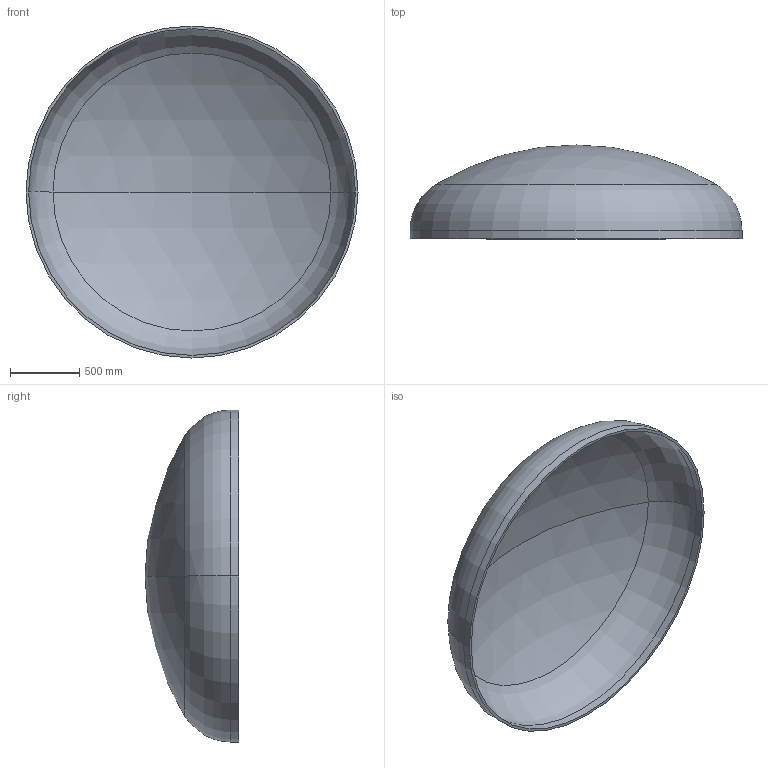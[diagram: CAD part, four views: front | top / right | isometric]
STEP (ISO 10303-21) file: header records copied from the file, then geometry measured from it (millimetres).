
FILE_DESCRIPTION (( 'STEP AP203' ), '1' );
FILE_NAME ('DIN 28013 Korbbogenform_-_Boden DIN 28013 - 2400 x 60 - I - s=19.step', '2016-07-01T15:09:09', ( '' ), ( '' ), 'SwSTEP 2.0', 'SolidWorks 2013', '' );
FILE_SCHEMA (( 'CONFIG_CONTROL_DESIGN' ));
Length unit declared in the file: millimetre
Products named in the file (1): DIN 28013 Korbbogenform_-_Boden DIN 28013 - 2400 x 60 - I - s=19
Bounding box: 2400 x 678.1 x 2400 mm (x, y, z)
Volume: 126358360 mm3; surface area: 13443753.6 mm2
Topology: 1 solids, 1 shells, 13 faces, 24 edges, 14 vertices
Faces by surface type: torus 4, cylinder 4, sphere 4, plane 1
Entity records: 407 total; most frequent: DIRECTION 72, CARTESIAN_POINT 52, ORIENTED_EDGE 48, AXIS2_PLACEMENT_3D 34, EDGE_CURVE 24, CIRCLE 20, VERTEX_POINT 14, EDGE_LOOP 14
